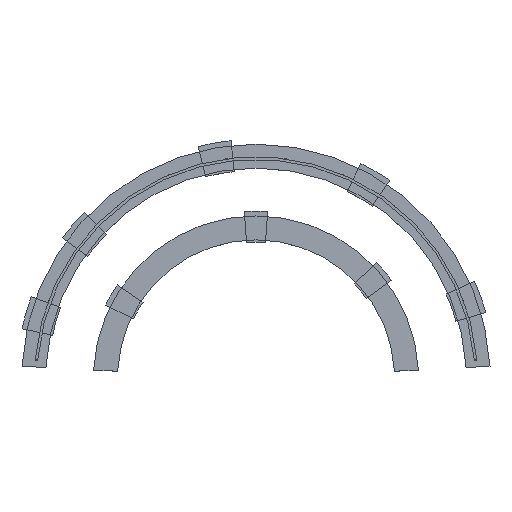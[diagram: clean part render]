
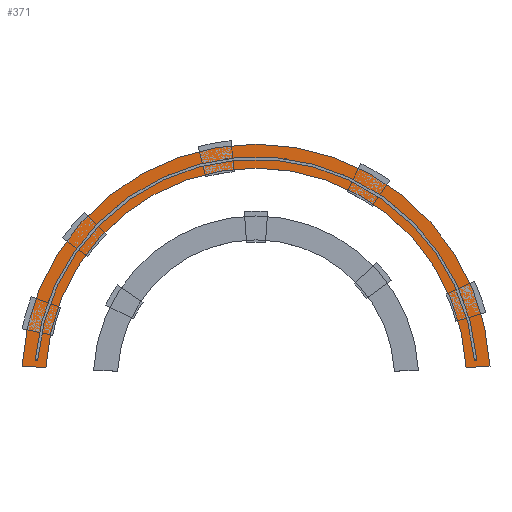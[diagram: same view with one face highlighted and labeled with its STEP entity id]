
A CAD part, top view. The second image highlights one B-rep face of the part: STEP entity #371.
In plain terms, the highlighted planar face has unit normal (0, 0, 1).
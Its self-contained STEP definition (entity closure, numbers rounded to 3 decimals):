
#139 = CYLINDRICAL_SURFACE('',#140,7.252);
#140 = AXIS2_PLACEMENT_3D('',#141,#142,#143);
#141 = CARTESIAN_POINT('',(0.,-3.7,0.1));
#142 = DIRECTION('',(-0.,-0.,-1.));
#143 = DIRECTION('',(1.,0.,0.));
#164 = VERTEX_POINT('',#165);
#165 = CARTESIAN_POINT('',(7.242,-3.32,0.45));
#179 = PLANE('',#180);
#180 = AXIS2_PLACEMENT_3D('',#181,#182,#183);
#181 = CARTESIAN_POINT('',(0.,-3.7,0.));
#182 = DIRECTION('',(-0.052,0.999,0.));
#183 = DIRECTION('',(0.999,0.052,0.));
#191 = EDGE_CURVE('',#164,#192,#194,.T.);
#192 = VERTEX_POINT('',#193);
#193 = CARTESIAN_POINT('',(-7.242,-3.32,0.45));
#194 = SURFACE_CURVE('',#195,(#200,#207),.PCURVE_S1.);
#195 = CIRCLE('',#196,7.252);
#196 = AXIS2_PLACEMENT_3D('',#197,#198,#199);
#197 = CARTESIAN_POINT('',(0.,-3.7,0.45));
#198 = DIRECTION('',(0.,0.,1.));
#199 = DIRECTION('',(1.,0.,0.));
#200 = PCURVE('',#139,#201);
#201 = DEFINITIONAL_REPRESENTATION('',(#202),#206);
#202 = LINE('',#203,#204);
#203 = CARTESIAN_POINT('',(-0.,-0.35));
#204 = VECTOR('',#205,1.);
#205 = DIRECTION('',(-1.,0.));
#206 = ( GEOMETRIC_REPRESENTATION_CONTEXT(2) 
PARAMETRIC_REPRESENTATION_CONTEXT() REPRESENTATION_CONTEXT('2D SPACE',''
  ) );
#207 = PCURVE('',#208,#213);
#208 = PLANE('',#209);
#209 = AXIS2_PLACEMENT_3D('',#210,#211,#212);
#210 = CARTESIAN_POINT('',(0.,-3.7,0.45));
#211 = DIRECTION('',(0.,0.,1.));
#212 = DIRECTION('',(1.,0.,-0.));
#213 = DEFINITIONAL_REPRESENTATION('',(#214),#218);
#214 = CIRCLE('',#215,7.252);
#215 = AXIS2_PLACEMENT_2D('',#216,#217);
#216 = CARTESIAN_POINT('',(0.,0.));
#217 = DIRECTION('',(1.,0.));
#218 = ( GEOMETRIC_REPRESENTATION_CONTEXT(2) 
PARAMETRIC_REPRESENTATION_CONTEXT() REPRESENTATION_CONTEXT('2D SPACE',''
  ) );
#234 = PLANE('',#235);
#235 = AXIS2_PLACEMENT_3D('',#236,#237,#238);
#236 = CARTESIAN_POINT('',(-18.105,-2.751,
    0.));
#237 = DIRECTION('',(0.052,0.999,-0.));
#238 = DIRECTION('',(0.999,-0.052,0.));
#311 = CYLINDRICAL_SURFACE('',#312,6.512);
#312 = AXIS2_PLACEMENT_3D('',#313,#314,#315);
#313 = CARTESIAN_POINT('',(0.,-3.7,0.1));
#314 = DIRECTION('',(-0.,-0.,-1.));
#315 = DIRECTION('',(1.,0.,0.));
#327 = EDGE_CURVE('',#328,#192,#330,.T.);
#328 = VERTEX_POINT('',#329);
#329 = CARTESIAN_POINT('',(-6.503,-3.359,0.45));
#330 = SURFACE_CURVE('',#331,(#335,#342),.PCURVE_S1.);
#331 = LINE('',#332,#333);
#332 = CARTESIAN_POINT('',(-9.053,-3.226,0.45));
#333 = VECTOR('',#334,1.);
#334 = DIRECTION('',(-0.999,0.052,0.));
#335 = PCURVE('',#234,#336);
#336 = DEFINITIONAL_REPRESENTATION('',(#337),#341);
#337 = LINE('',#338,#339);
#338 = CARTESIAN_POINT('',(9.065,-0.45));
#339 = VECTOR('',#340,1.);
#340 = DIRECTION('',(-1.,-0.));
#341 = ( GEOMETRIC_REPRESENTATION_CONTEXT(2) 
PARAMETRIC_REPRESENTATION_CONTEXT() REPRESENTATION_CONTEXT('2D SPACE',''
  ) );
#342 = PCURVE('',#208,#343);
#343 = DEFINITIONAL_REPRESENTATION('',(#344),#348);
#344 = LINE('',#345,#346);
#345 = CARTESIAN_POINT('',(-9.053,0.474));
#346 = VECTOR('',#347,1.);
#347 = DIRECTION('',(-0.999,0.052));
#348 = ( GEOMETRIC_REPRESENTATION_CONTEXT(2) 
PARAMETRIC_REPRESENTATION_CONTEXT() REPRESENTATION_CONTEXT('2D SPACE',''
  ) );
#371 = ADVANCED_FACE('',(#372),#208,.T.);
#372 = FACE_BOUND('',#373,.T.);
#373 = EDGE_LOOP('',(#374,#397,#398,#399));
#374 = ORIENTED_EDGE('',*,*,#375,.F.);
#375 = EDGE_CURVE('',#164,#376,#378,.T.);
#376 = VERTEX_POINT('',#377);
#377 = CARTESIAN_POINT('',(6.503,-3.359,0.45));
#378 = SURFACE_CURVE('',#379,(#383,#390),.PCURVE_S1.);
#379 = LINE('',#380,#381);
#380 = CARTESIAN_POINT('',(0.,-3.7,0.45));
#381 = VECTOR('',#382,1.);
#382 = DIRECTION('',(-0.999,-0.052,0.));
#383 = PCURVE('',#208,#384);
#384 = DEFINITIONAL_REPRESENTATION('',(#385),#389);
#385 = LINE('',#386,#387);
#386 = CARTESIAN_POINT('',(0.,0.));
#387 = VECTOR('',#388,1.);
#388 = DIRECTION('',(-0.999,-0.052));
#389 = ( GEOMETRIC_REPRESENTATION_CONTEXT(2) 
PARAMETRIC_REPRESENTATION_CONTEXT() REPRESENTATION_CONTEXT('2D SPACE',''
  ) );
#390 = PCURVE('',#179,#391);
#391 = DEFINITIONAL_REPRESENTATION('',(#392),#396);
#392 = LINE('',#393,#394);
#393 = CARTESIAN_POINT('',(0.,-0.45));
#394 = VECTOR('',#395,1.);
#395 = DIRECTION('',(-1.,-0.));
#396 = ( GEOMETRIC_REPRESENTATION_CONTEXT(2) 
PARAMETRIC_REPRESENTATION_CONTEXT() REPRESENTATION_CONTEXT('2D SPACE',''
  ) );
#397 = ORIENTED_EDGE('',*,*,#191,.T.);
#398 = ORIENTED_EDGE('',*,*,#327,.F.);
#399 = ORIENTED_EDGE('',*,*,#400,.F.);
#400 = EDGE_CURVE('',#376,#328,#401,.T.);
#401 = SURFACE_CURVE('',#402,(#407,#414),.PCURVE_S1.);
#402 = CIRCLE('',#403,6.512);
#403 = AXIS2_PLACEMENT_3D('',#404,#405,#406);
#404 = CARTESIAN_POINT('',(0.,-3.7,0.45));
#405 = DIRECTION('',(0.,0.,1.));
#406 = DIRECTION('',(1.,0.,0.));
#407 = PCURVE('',#208,#408);
#408 = DEFINITIONAL_REPRESENTATION('',(#409),#413);
#409 = CIRCLE('',#410,6.512);
#410 = AXIS2_PLACEMENT_2D('',#411,#412);
#411 = CARTESIAN_POINT('',(0.,0.));
#412 = DIRECTION('',(1.,0.));
#413 = ( GEOMETRIC_REPRESENTATION_CONTEXT(2) 
PARAMETRIC_REPRESENTATION_CONTEXT() REPRESENTATION_CONTEXT('2D SPACE',''
  ) );
#414 = PCURVE('',#311,#415);
#415 = DEFINITIONAL_REPRESENTATION('',(#416),#420);
#416 = LINE('',#417,#418);
#417 = CARTESIAN_POINT('',(-0.,-0.35));
#418 = VECTOR('',#419,1.);
#419 = DIRECTION('',(-1.,0.));
#420 = ( GEOMETRIC_REPRESENTATION_CONTEXT(2) 
PARAMETRIC_REPRESENTATION_CONTEXT() REPRESENTATION_CONTEXT('2D SPACE',''
  ) );
